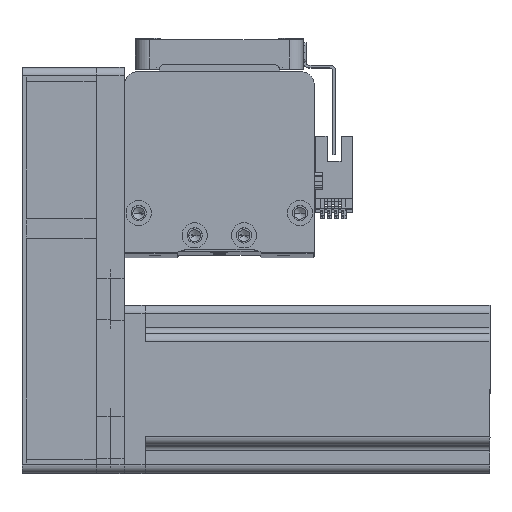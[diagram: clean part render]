
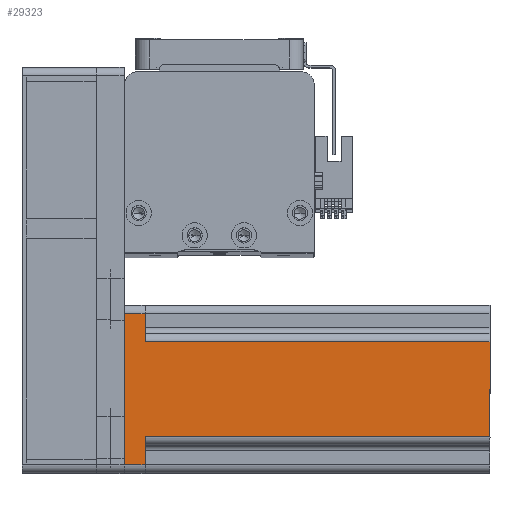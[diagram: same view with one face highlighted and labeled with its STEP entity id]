
A CAD part, top view. The second image highlights one B-rep face of the part: STEP entity #29323.
In plain terms, the highlighted planar face has unit normal (0, 0, 1) as drawn and (0, -1, 0) by its records, which use the part's own axes.
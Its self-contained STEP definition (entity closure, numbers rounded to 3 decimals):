
#1469 = ORIENTED_EDGE ( 'NONE', *, *, #32503, .T. ) ;
#1598 = CARTESIAN_POINT ( 'NONE',  ( 27., -30., 130.7 ) ) ;
#2027 = VECTOR ( 'NONE', #43937, 1000. ) ;
#2508 = ORIENTED_EDGE ( 'NONE', *, *, #40416, .T. ) ;
#3058 = CARTESIAN_POINT ( 'NONE',  ( -17., -30., 130.7 ) ) ;
#3837 = VERTEX_POINT ( 'NONE', #3058 ) ;
#4141 = CARTESIAN_POINT ( 'NONE',  ( 20., -30., 7.5 ) ) ;
#4812 = DIRECTION ( 'NONE',  ( 0., 0., 1. ) ) ;
#5046 = VERTEX_POINT ( 'NONE', #27678 ) ;
#6167 = VECTOR ( 'NONE', #4812, 1000. ) ;
#6358 = VERTEX_POINT ( 'NONE', #38378 ) ;
#6952 = CARTESIAN_POINT ( 'NONE',  ( -27., -30., 130.7 ) ) ;
#7321 = VERTEX_POINT ( 'NONE', #40384 ) ;
#8971 = CARTESIAN_POINT ( 'NONE',  ( -17., -30., 130.7 ) ) ;
#10524 = PLANE ( 'NONE',  #33304 ) ;
#10813 = CARTESIAN_POINT ( 'NONE',  ( 30., -30., 130.7 ) ) ;
#11110 = LINE ( 'NONE', #4141, #28624 ) ;
#11189 = EDGE_CURVE ( 'NONE', #44810, #5046, #35117, .T. ) ;
#11210 = CARTESIAN_POINT ( 'NONE',  ( -27., -30., 7.5 ) ) ;
#11600 = VECTOR ( 'NONE', #12370, 1000. ) ;
#12370 = DIRECTION ( 'NONE',  ( 1., 0., 0. ) ) ;
#13619 = ORIENTED_EDGE ( 'NONE', *, *, #42406, .T. ) ;
#14036 = ORIENTED_EDGE ( 'NONE', *, *, #35343, .T. ) ;
#14239 = EDGE_CURVE ( 'NONE', #3837, #27435, #40215, .T. ) ;
#14316 = DIRECTION ( 'NONE',  ( -1., 0., 0. ) ) ;
#15455 = EDGE_LOOP ( 'NONE', ( #35611, #19486, #24878, #1469, #2508, #14036, #13619, #27895 ) ) ;
#16993 = CARTESIAN_POINT ( 'NONE',  ( 30., -30., 130.7 ) ) ;
#17450 = VECTOR ( 'NONE', #40190, 1000. ) ;
#17848 = CARTESIAN_POINT ( 'NONE',  ( 17., -30., 7.5 ) ) ;
#19194 = CARTESIAN_POINT ( 'NONE',  ( 30., -30., 0. ) ) ;
#19486 = ORIENTED_EDGE ( 'NONE', *, *, #14239, .T. ) ;
#20334 = DIRECTION ( 'NONE',  ( 1., 0., 0. ) ) ;
#20610 = LINE ( 'NONE', #1598, #38079 ) ;
#22246 = CARTESIAN_POINT ( 'NONE',  ( 17., -30., 130.7 ) ) ;
#24878 = ORIENTED_EDGE ( 'NONE', *, *, #27152, .F. ) ;
#25156 = VECTOR ( 'NONE', #34858, 1000. ) ;
#26274 = LINE ( 'NONE', #6952, #25156 ) ;
#26990 = VERTEX_POINT ( 'NONE', #28760 ) ;
#27152 = EDGE_CURVE ( 'NONE', #36860, #27435, #38394, .T. ) ;
#27435 = VERTEX_POINT ( 'NONE', #37077 ) ;
#27678 = CARTESIAN_POINT ( 'NONE',  ( 17., -30., 130.7 ) ) ;
#27895 = ORIENTED_EDGE ( 'NONE', *, *, #11189, .T. ) ;
#28463 = DIRECTION ( 'NONE',  ( -1., 0., 0. ) ) ;
#28624 = VECTOR ( 'NONE', #28463, 1000. ) ;
#28760 = CARTESIAN_POINT ( 'NONE',  ( 27., -30., 0. ) ) ;
#29323 = ADVANCED_FACE ( 'NONE', ( #40564 ), #10524, .F. ) ;
#29554 = DIRECTION ( 'NONE',  ( 0., 0., 1. ) ) ;
#29763 = VECTOR ( 'NONE', #20334, 1000. ) ;
#30868 = LINE ( 'NONE', #16993, #29763 ) ;
#32503 = EDGE_CURVE ( 'NONE', #36860, #6358, #26274, .T. ) ;
#33304 = AXIS2_PLACEMENT_3D ( 'NONE', #10813, #35230, #14316 ) ;
#33461 = CARTESIAN_POINT ( 'NONE',  ( -20., -30., 7.5 ) ) ;
#34560 = EDGE_CURVE ( 'NONE', #3837, #5046, #30868, .T. ) ;
#34858 = DIRECTION ( 'NONE',  ( 0., 0., -1. ) ) ;
#35117 = LINE ( 'NONE', #22246, #6167 ) ;
#35230 = DIRECTION ( 'NONE',  ( 0., 1., 0. ) ) ;
#35343 = EDGE_CURVE ( 'NONE', #26990, #7321, #20610, .T. ) ;
#35611 = ORIENTED_EDGE ( 'NONE', *, *, #34560, .F. ) ;
#36860 = VERTEX_POINT ( 'NONE', #11210 ) ;
#37074 = LINE ( 'NONE', #19194, #17450 ) ;
#37077 = CARTESIAN_POINT ( 'NONE',  ( -17., -30., 7.5 ) ) ;
#38079 = VECTOR ( 'NONE', #29554, 1000. ) ;
#38378 = CARTESIAN_POINT ( 'NONE',  ( -27., -30., 0. ) ) ;
#38394 = LINE ( 'NONE', #33461, #11600 ) ;
#40190 = DIRECTION ( 'NONE',  ( 1., 0., 0. ) ) ;
#40215 = LINE ( 'NONE', #8971, #2027 ) ;
#40384 = CARTESIAN_POINT ( 'NONE',  ( 27., -30., 7.5 ) ) ;
#40416 = EDGE_CURVE ( 'NONE', #6358, #26990, #37074, .T. ) ;
#40564 = FACE_OUTER_BOUND ( 'NONE', #15455, .T. ) ;
#42406 = EDGE_CURVE ( 'NONE', #7321, #44810, #11110, .T. ) ;
#43937 = DIRECTION ( 'NONE',  ( 0., 0., -1. ) ) ;
#44810 = VERTEX_POINT ( 'NONE', #17848 ) ;
